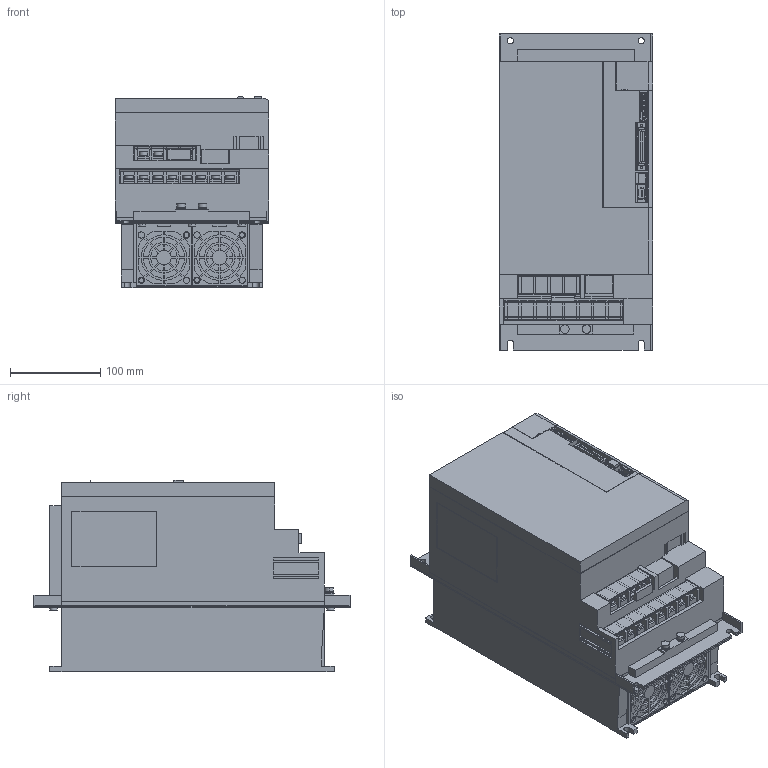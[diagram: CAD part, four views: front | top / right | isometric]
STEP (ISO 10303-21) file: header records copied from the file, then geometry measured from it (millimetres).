
FILE_DESCRIPTION (( 'STEP AP203' ), '1' );
FILE_NAME ('sgd7s_550a00a001.STEP', '2015-10-09T04:31:45', ( '匠エンジニアリング山之内' ), ( 'TAKUMI-Engniaring' ), 'SwSTEP 2.0', 'SolidWorks 2006303', '' );
FILE_SCHEMA (( 'CONFIG_CONTROL_DESIGN' ));
Products named in the file (8): sgd7s_550a00a001_cover2; sgd7s_550a00a001_cover; sgd7s_550a00a001; sgd7s_550a00a001_base; sgd7s_550a00a001_connector; sgd7s_550a00a001_cover3; sgd7s_550a00a001_cover4; sgd7s_550a00a001_terminal
Assembly tree (8 placements, depth 2):
  sgd7s_550a00a001
    sgd7s_550a00a001_cover
    sgd7s_550a00a001_connector
    sgd7s_550a00a001_cover2  x2
    sgd7s_550a00a001_terminal
    sgd7s_550a00a001_cover3
    sgd7s_550a00a001_cover4
    sgd7s_550a00a001_base
Bounding box: 170.5 x 350 x 212.29 mm (x, y, z)
Volume: 8120635.1 mm3; surface area: 911094.7 mm2
Topology: 8 solids, 8 shells, 2215 faces, 5856 edges, 3876 vertices
Faces by surface type: plane 1769, cylinder 441, cone 4, sphere 1
Entity records: 68218 total; most frequent: CARTESIAN_POINT 11847, ORIENTED_EDGE 11604, DIRECTION 11106, EDGE_CURVE 5802, VECTOR 4908, LINE 4908, VERTEX_POINT 3840, AXIS2_PLACEMENT_3D 3099
